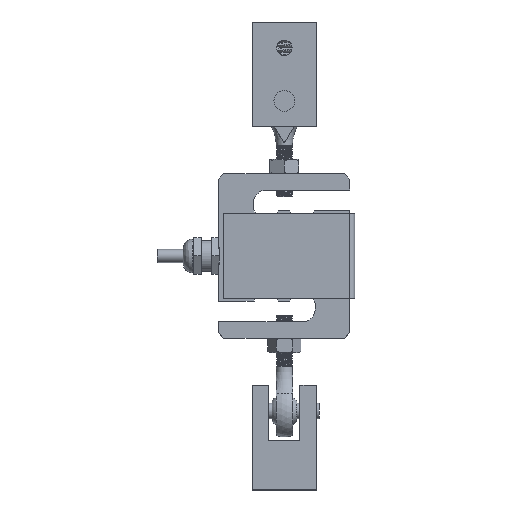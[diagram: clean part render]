
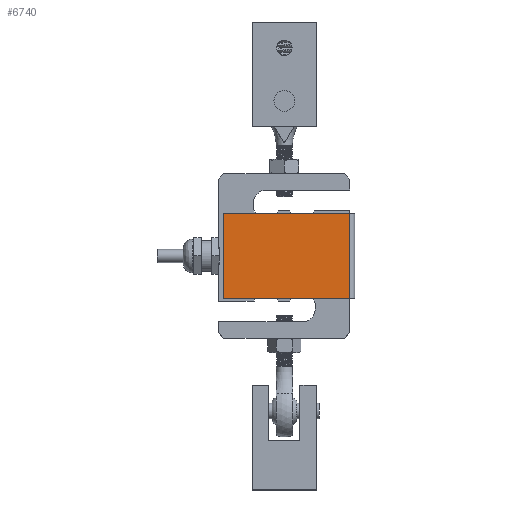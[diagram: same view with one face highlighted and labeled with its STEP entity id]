
A CAD part, top view. The second image highlights one B-rep face of the part: STEP entity #6740.
In plain terms, the highlighted planar face has unit normal (0, 0, 1) as drawn and (0, 1, 0) by its records, which use the part's own axes.
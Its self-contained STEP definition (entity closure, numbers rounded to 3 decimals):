
#740=PLANE('',#7256);
#890=FACE_OUTER_BOUND('',#1296,.T.);
#1296=EDGE_LOOP('',(#4615,#4616,#4617,#4618));
#1751=LINE('',#10312,#2133);
#1756=LINE('',#10325,#2138);
#1763=LINE('',#10341,#2145);
#1765=LINE('',#10344,#2147);
#2133=VECTOR('',#7963,10.);
#2138=VECTOR('',#7974,1.44);
#2145=VECTOR('',#7993,10.);
#2147=VECTOR('',#7997,10.);
#2705=VERTEX_POINT('',#10310);
#2706=VERTEX_POINT('',#10311);
#2711=VERTEX_POINT('',#10323);
#2714=VERTEX_POINT('',#10340);
#3439=EDGE_CURVE('',#2705,#2706,#1751,.T.);
#3446=EDGE_CURVE('',#2706,#2711,#1756,.T.);
#3455=EDGE_CURVE('',#2714,#2705,#1763,.T.);
#3457=EDGE_CURVE('',#2711,#2714,#1765,.T.);
#4615=ORIENTED_EDGE('',*,*,#3439,.T.);
#4616=ORIENTED_EDGE('',*,*,#3446,.T.);
#4617=ORIENTED_EDGE('',*,*,#3457,.T.);
#4618=ORIENTED_EDGE('',*,*,#3455,.T.);
#6740=ADVANCED_FACE('',(#890),#740,.T.);
#7256=AXIS2_PLACEMENT_3D('',#10346,#8000,#8001);
#7963=DIRECTION('',(0.,0.,-1.));
#7974=DIRECTION('',(-1.,0.,0.));
#7993=DIRECTION('',(1.,0.,0.));
#7997=DIRECTION('',(0.,0.,1.));
#8000=DIRECTION('center_axis',(0.,1.,0.));
#8001=DIRECTION('ref_axis',(0.,0.,-1.));
#10310=CARTESIAN_POINT('',(25.2,8.255,16.5));
#10311=CARTESIAN_POINT('',(25.2,8.255,-16.5));
#10312=CARTESIAN_POINT('',(25.2,8.255,0.));
#10323=CARTESIAN_POINT('',(-23.6,8.255,-16.5));
#10325=CARTESIAN_POINT('',(29.724,8.255,-16.5));
#10340=CARTESIAN_POINT('',(-23.6,8.255,16.5));
#10341=CARTESIAN_POINT('',(25.2,8.255,16.5));
#10344=CARTESIAN_POINT('',(-23.6,8.255,16.5));
#10346=CARTESIAN_POINT('Origin',(1.931,8.255,0.));
